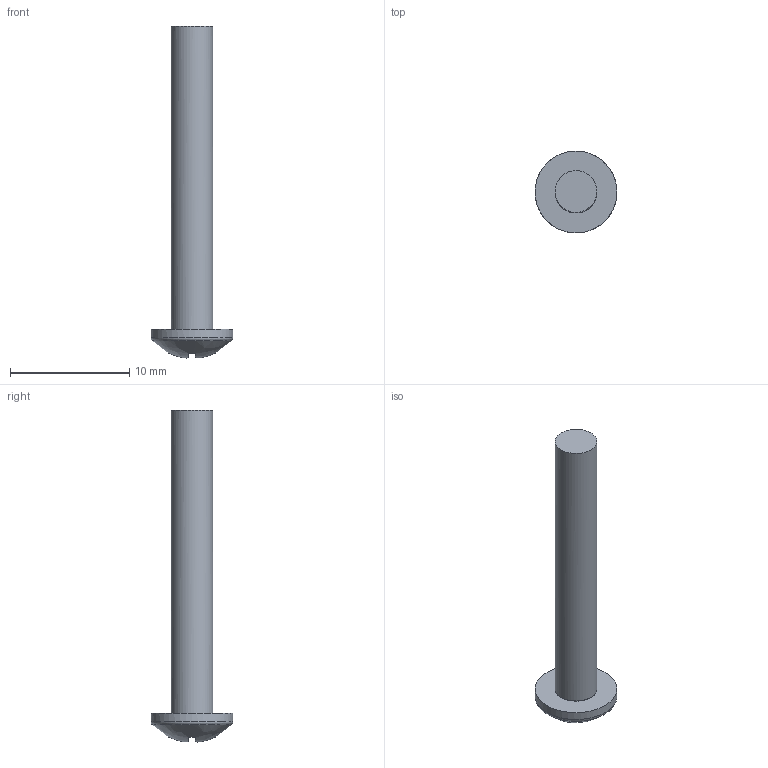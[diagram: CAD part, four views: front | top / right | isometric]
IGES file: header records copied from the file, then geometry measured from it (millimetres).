
Global section: file name: C:/temp/bug_10674.igs; native system: Autodesk Inventor 2013; preprocessor: AutoDesk Inventor Iges Exporter R2013; author: Bill; date: 20130819.145616; units: millimetre
Bounding box: 6.86 x 6.85 x 27.81 mm (x, y, z)
Volume: 304.3 mm3; surface area: 393.4 mm2
Topology: 1 solids, 1 shells, 28 faces, 73 edges, 48 vertices
Faces by surface type: bspline 28
